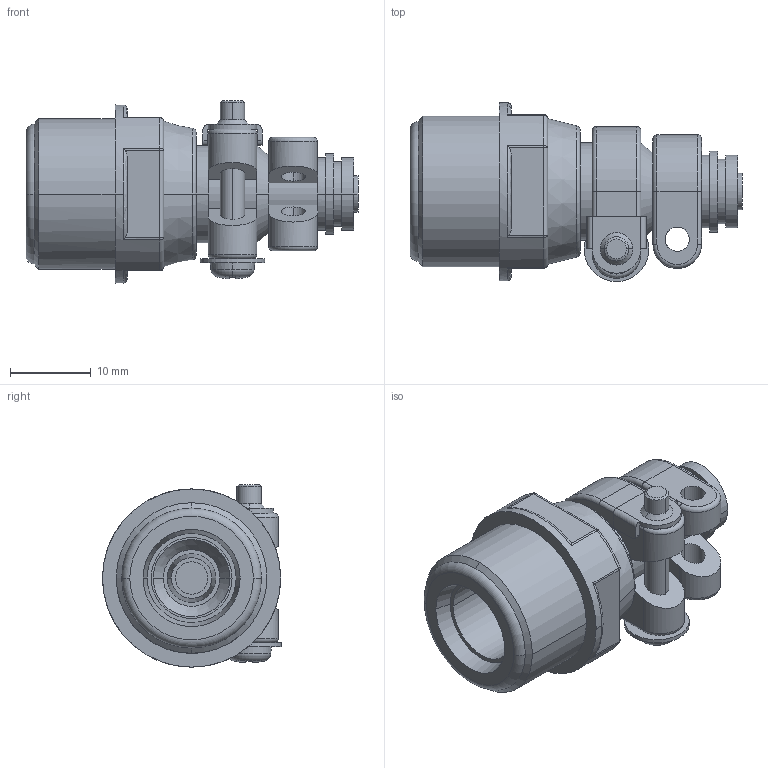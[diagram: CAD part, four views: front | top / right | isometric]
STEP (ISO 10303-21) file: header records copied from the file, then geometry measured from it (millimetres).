
FILE_DESCRIPTION(('Creo Elements/Direct Modeling STEP Export'),'2;1');
FILE_NAME('20130718_OA-SD.stp','2013-09-18T16:55:51',(''),(''),'Creo Elements/Direct Modeling STEP processor for AP214 (Solid Model)','Creo Elements/Direct Modeling 18.1B 29-Sep-2012 (C) Parametric Technology GmbH','');
FILE_SCHEMA(('AUTOMOTIVE_DESIGN { 1 0 10303 214 1 1 1 1 }'));
Length unit declared in the file: millimetre
Products named in the file (5): M3平ワッシャー; OA-SD_本体; M3プレスナット; M3なべ小ねじ; OA-SD
Assembly tree (4 placements, depth 2):
  OA-SD
    M3なべ小ねじ
    M3プレスナット
    OA-SD_本体
    M3平ワッシャー
Bounding box: 41 x 22.1 x 22.5 mm (x, y, z)
Volume: 6528.2 mm3; surface area: 5199.8 mm2
Topology: 4 solids, 4 shells, 204 faces, 492 edges, 300 vertices
Faces by surface type: cylinder 81, plane 69, cone 22, torus 22, sphere 10
Entity records: 5843 total; most frequent: CARTESIAN_POINT 1139, ORIENTED_EDGE 968, DIRECTION 964, EDGE_CURVE 484, AXIS2_PLACEMENT_3D 385, VERTEX_POINT 300, EDGE_LOOP 228, FACE_OUTER_BOUND 204
